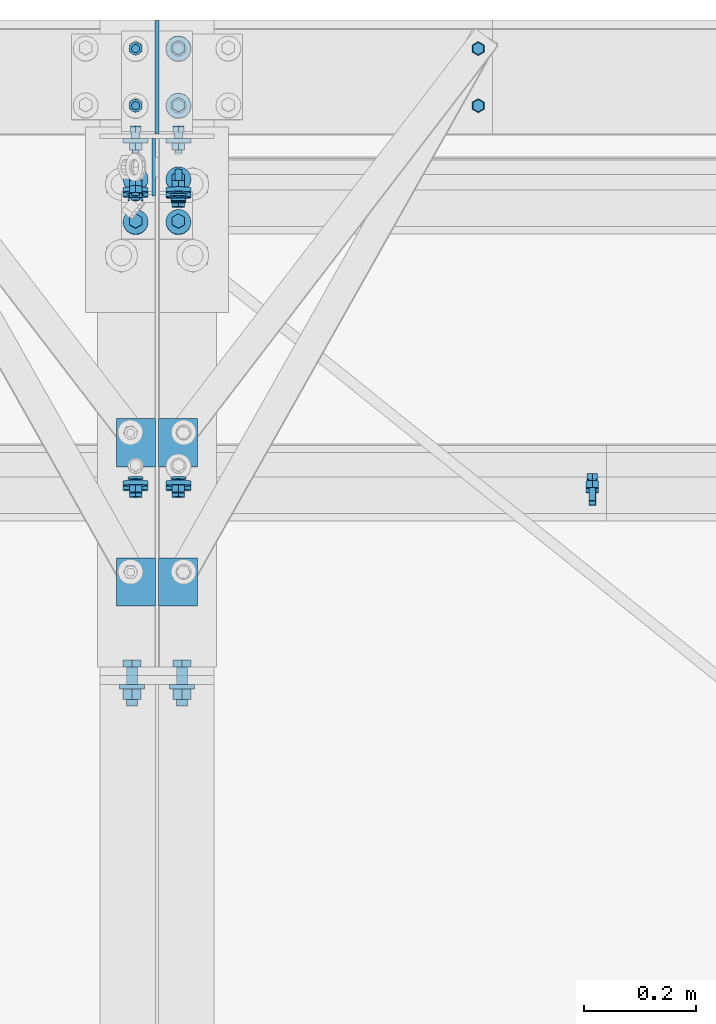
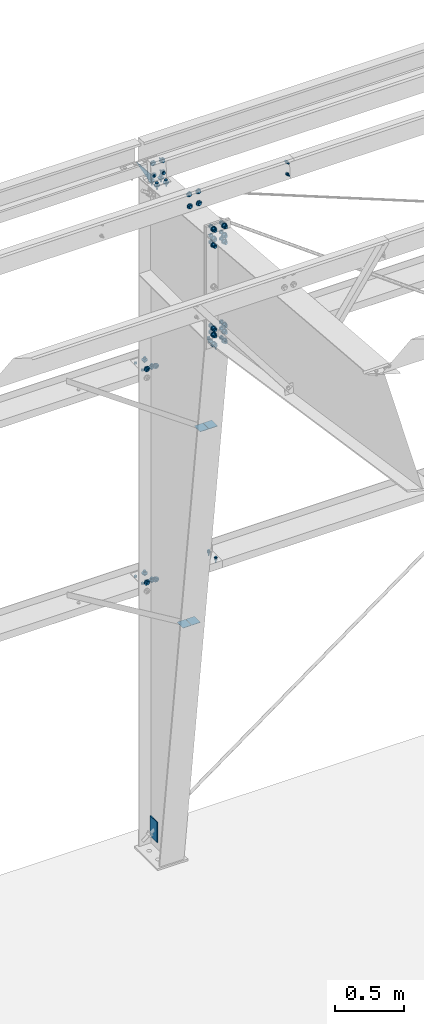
# One storey, part 99 of 185: 19 mechanical fasteners, 6 discrete accessories, 9 elements without a shape of their own.
"""IFC2X3 building model written with IfcOpenShell, lengths in millimetres."""

from ifc_helpers import new_model, si_unit, frame, origin_with_axes, origin_2d_with_axis, place, context, subcontext, project, spatial, polyline, rectangle, circle, outline, extrude, source, transform, mapped, material, type_object, element, aggregate, save


model = new_model("IFC2X3")

# Units and contexts
model_context = context("Model", 3, precision=1e-05, world=origin_with_axes())
body_context = subcontext(model_context, "Body", "Model", "MODEL_VIEW")
ifc_project = project(units=[si_unit("LENGTHUNIT", "METRE", prefix="MILLI"), si_unit("AREAUNIT", "SQUARE_METRE"), si_unit("VOLUMEUNIT", "CUBIC_METRE"), si_unit("MASSUNIT", "GRAM", prefix="KILO"), si_unit("TIMEUNIT", "SECOND"), si_unit("PLANEANGLEUNIT", "RADIAN"), si_unit("SOLIDANGLEUNIT", "STERADIAN"), si_unit("THERMODYNAMICTEMPERATUREUNIT", "DEGREE_CELSIUS"), si_unit("LUMINOUSINTENSITYUNIT", "LUMEN")], contexts=[model_context])

# Site, building, storey
site_placement = place(None, origin_with_axes())
site = spatial("IfcSite", under=ifc_project, at=site_placement, Name="Undefined", CompositionType="ELEMENT")
building_placement = place(site_placement, origin_with_axes())
building = spatial("IfcBuilding", under=site, at=building_placement, Name="Undefined", CompositionType="ELEMENT")
storey_placement = place(building_placement, origin_with_axes())
storey = spatial("IfcBuildingStorey", under=building, at=storey_placement, Name="Undefined", CompositionType="ELEMENT", Elevation=0.0)

# Assembly, mechanical fasteners
assembly_1_placement = place(storey_placement, origin_with_axes())
assembly_1 = element("IfcElementAssembly", 1, at=assembly_1_placement, inside=storey, Name="Steel Assembly", AssemblyPlace="NOTDEFINED", PredefinedType="RIGID_FRAME")
ifc_material_1 = material(Name="Undefined")
discrete_accessory_type_1 = type_object("IfcDiscreteAccessoryType", Name="Bolt assembly")
shared_shape_1 = source(origin_with_axes(), body_context, "Body", "SweptSolid", [
    extrude(circle(Radius=7.14374971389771, at=origin_2d_with_axis()), frame((0.0, -1.59000001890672, 0.0), z_axis=(0.0, 1.0, 0.0), x_axis=(1.0, 0.0, 0.0)), (0.0, 0.0, 1.0), 3.3),
    extrude(circle(Radius=13.4937496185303, at=origin_2d_with_axis()), frame((0.0, -5.5587500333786, 0.0), z_axis=(0.0, 1.0, 0.0), x_axis=(1.0, 0.0, 0.0)), (0.0, 0.0, 1.0), 4.0),
    extrude(circle(Radius=22.2250003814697, at=origin_2d_with_axis()), frame((0.0, 1.5900000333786, 0.0), z_axis=(0.0, 1.0, 0.0), x_axis=(1.0, 0.0, 0.0)), (0.0, 0.0, 1.0), 7.9),
    extrude(outline(polyline([(12.8316099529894, 0.0), (6.4158049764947, 11.1125001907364), (-6.4158049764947, 11.1125001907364), (-12.8316099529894, 0.0), (-6.4158049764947, -11.1125001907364), (6.4158049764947, -11.1125001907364), (12.8316099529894, 0.0)])), frame((0.0, 9.5275000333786, 0.0), z_axis=(0.0, 1.0, 0.0), x_axis=(1.0, 0.0, 0.0)), (0.0, 0.0, 1.0), 12.3),
])
mechanical_fastener_1_placement = place(assembly_1_placement, frame((30137.1, 31696.1295150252, 6070.67979008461), z_axis=(1.0, 0.0, 0.0), x_axis=(0.0, -0.0830454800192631, -0.996545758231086)))
mechanical_fastener_1 = element("IfcMechanicalFastener", 2, at=mechanical_fastener_1_placement, type_object=discrete_accessory_type_1, material=ifc_material_1, Name="Bolt assembly", NominalDiameter=12.6999998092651, NominalLength=38.0999984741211, context=body_context, shape_type="MappedRepresentation", body=[
    mapped(shared_shape_1, transform((0.0, 0.0, 0.0))),
    mapped(shared_shape_1, transform((101.599998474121, 0.0, 0.0))),
])
mechanical_fastener_2_placement = place(assembly_1_placement, frame((30060.9, 31696.1295150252, 6070.67979008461), z_axis=(1.0, 0.0, 0.0), x_axis=(0.0, -0.0830454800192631, -0.996545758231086)))
mechanical_fastener_2 = element("IfcMechanicalFastener", 3, at=mechanical_fastener_2_placement, type_object=discrete_accessory_type_1, material=ifc_material_1, Name="Bolt assembly", NominalDiameter=12.6999998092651, NominalLength=38.0999984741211, context=body_context, shape_type="MappedRepresentation", body=[
    mapped(shared_shape_1, transform((0.0, 0.0, 0.0))),
    mapped(shared_shape_1, transform((101.599998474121, 0.0, 0.0))),
])

# Assembly, mechanical fastener
assembly_2_placement = place(storey_placement, origin_with_axes())
assembly_2 = element("IfcElementAssembly", 4, at=assembly_2_placement, inside=storey, Name="Steel Assembly", AssemblyPlace="NOTDEFINED", PredefinedType="RIGID_FRAME")
mechanical_fastener_3_placement = place(assembly_2_placement, frame((30060.9, 31185.1382206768, 6113.2623980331), z_axis=(-1.0, 0.0, 0.0), x_axis=(0.0, -0.0830454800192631, -0.996545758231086)))
mechanical_fastener_3 = element("IfcMechanicalFastener", 5, at=mechanical_fastener_3_placement, type_object=discrete_accessory_type_1, material=ifc_material_1, Name="Bolt assembly", NominalDiameter=12.6999998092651, NominalLength=38.0999984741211, context=body_context, shape_type="MappedRepresentation", body=[
    mapped(shared_shape_1, transform((0.0, 0.0, 0.0))),
    mapped(shared_shape_1, transform((101.599998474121, 0.0, 0.0))),
])
aggregate(assembly_2, [mechanical_fastener_3])

assembly_3_placement = place(storey_placement, origin_with_axes())
assembly_3 = element("IfcElementAssembly", 6, at=assembly_3_placement, inside=storey, Name="Steel Assembly", AssemblyPlace="NOTDEFINED", PredefinedType="RIGID_FRAME")
mechanical_fastener_4_placement = place(assembly_3_placement, frame((30137.1, 31185.1382206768, 6113.2623980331), z_axis=(-1.0, 0.0, 0.0), x_axis=(0.0, -0.0830454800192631, -0.996545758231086)))
mechanical_fastener_4 = element("IfcMechanicalFastener", 7, at=mechanical_fastener_4_placement, type_object=discrete_accessory_type_1, material=ifc_material_1, Name="Bolt assembly", NominalDiameter=12.6999998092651, NominalLength=38.0999984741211, context=body_context, shape_type="MappedRepresentation", body=[
    mapped(shared_shape_1, transform((0.0, 0.0, 0.0))),
    mapped(shared_shape_1, transform((101.599998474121, 0.0, 0.0))),
])

# Assembly, discrete accessories
assembly_4_placement = place(storey_placement, origin_with_axes())
assembly_4 = element("IfcElementAssembly", 8, at=assembly_4_placement, inside=storey, Name="Steel Assembly", AssemblyPlace="NOTDEFINED", PredefinedType="RIGID_FRAME")
ifc_material_2 = material(Name="STEEL/55")
discrete_accessory_type_2 = type_object("IfcDiscreteAccessoryType", Name="FLANGE BRACE FLIP")
discrete_accessory_1_placement = place(assembly_4_placement, frame((30101.38125, 31251.9277679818, 2284.292), z_axis=(0.0, 1.0, 0.0), x_axis=(1.0, 0.0, 0.0)))
discrete_accessory_1 = element("IfcDiscreteAccessory", 9, at=discrete_accessory_1_placement, type_object=discrete_accessory_type_2, material=ifc_material_2, Name="FLANGE BRACE FLIP", ObjectType="PL1/8\"X2 3/4\"", context=body_context, shape_type="SweptSolid", body=[
    extrude(rectangle(XDim=3.416, YDim=85.725, at=origin_2d_with_axis()), frame((69.8499999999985, 0.0, 0.0), z_axis=(-1.0, 0.0, 0.0), x_axis=(0.0, -1.0, 0.0)), (0.0, 0.0, 1.0), 69.8),
])
discrete_accessory_2_placement = place(assembly_4_placement, frame((30096.61875, 31251.9277679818, 2284.292), z_axis=(0.0, 1.0, 0.0), x_axis=(-1.0, 0.0, 0.0)))
discrete_accessory_2 = element("IfcDiscreteAccessory", 10, at=discrete_accessory_2_placement, type_object=discrete_accessory_type_2, material=ifc_material_2, Name="FLANGE BRACE FLIP", ObjectType="PL1/8\"X2 3/4\"", context=body_context, shape_type="SweptSolid", body=[
    extrude(rectangle(XDim=3.416, YDim=85.725, at=origin_2d_with_axis()), frame((69.8499999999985, 0.0, 0.0), z_axis=(-1.0, 0.0, 0.0), x_axis=(0.0, -1.0, 0.0)), (0.0, 0.0, 1.0), 69.8),
])
discrete_accessory_3_placement = place(assembly_4_placement, frame((30101.38125, 31003.9296133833, 4163.892), z_axis=(0.0, 1.0, 0.0), x_axis=(1.0, 0.0, 0.0)))
discrete_accessory_3 = element("IfcDiscreteAccessory", 11, at=discrete_accessory_3_placement, type_object=discrete_accessory_type_2, material=ifc_material_2, Name="FLANGE BRACE FLIP", ObjectType="PL1/8\"X2 3/4\"", context=body_context, shape_type="SweptSolid", body=[
    extrude(rectangle(XDim=3.416, YDim=85.725, at=origin_2d_with_axis()), frame((69.8499999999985, 0.0, 0.0), z_axis=(-1.0, 0.0, 0.0), x_axis=(0.0, -1.0, 0.0)), (0.0, 0.0, 1.0), 69.8),
])
discrete_accessory_4_placement = place(assembly_4_placement, frame((30096.61875, 31003.9296133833, 4163.892), z_axis=(0.0, 1.0, 0.0), x_axis=(-1.0, 0.0, 0.0)))
discrete_accessory_4 = element("IfcDiscreteAccessory", 12, at=discrete_accessory_4_placement, type_object=discrete_accessory_type_2, material=ifc_material_2, Name="FLANGE BRACE FLIP", ObjectType="PL1/8\"X2 3/4\"", context=body_context, shape_type="SweptSolid", body=[
    extrude(rectangle(XDim=3.416, YDim=85.725, at=origin_2d_with_axis()), frame((69.8499999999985, 0.0, 0.0), z_axis=(-1.0, 0.0, 0.0), x_axis=(0.0, -1.0, 0.0)), (0.0, 0.0, 1.0), 69.8),
])

# Assembly, mechanical fastener
assembly_5_placement = place(storey_placement, origin_with_axes())
assembly_5 = element("IfcElementAssembly", 13, at=assembly_5_placement, inside=storey, Name="Steel Assembly", AssemblyPlace="NOTDEFINED", PredefinedType="RIGID_FRAME")
shared_shape_2 = source(origin_with_axes(), body_context, "Body", "SweptSolid", [
    extrude(circle(Radius=7.14374971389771, at=origin_2d_with_axis()), frame((0.0, -0.1, 0.0), z_axis=(0.0, 1.0, 0.0), x_axis=(1.0, 0.0, 0.0)), (0.0, 0.0, 1.0), 8.0),
    extrude(circle(Radius=7.14374971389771, at=origin_2d_with_axis()), frame((0.0, -4.66250000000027, 0.0), z_axis=(0.0, 1.0, 0.0), x_axis=(1.0, 0.0, 0.0)), (0.0, 0.0, 1.0), 4.8),
    extrude(outline(polyline([(10.9985221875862, 0.0), (5.4992610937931, 9.52499961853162), (-5.4992610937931, 9.52499961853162), (-10.9985221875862, 0.0), (-5.4992610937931, -9.52499961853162), (5.4992610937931, -9.52499961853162), (10.9985221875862, 0.0)])), frame((0.0, -14.2874996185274, 0.0), z_axis=(0.0, 1.0, 0.0), x_axis=(1.0, 0.0, 0.0)), (0.0, 0.0, 1.0), 9.5),
    extrude(circle(Radius=6.34999990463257, at=origin_2d_with_axis()), frame((0.0, -4.76250000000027, 0.0), z_axis=(0.0, 1.0, 0.0), x_axis=(1.0, 0.0, 0.0)), (0.0, 0.0, 1.0), 38.1),
    extrude(circle(Radius=22.2250003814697, at=origin_2d_with_axis()), frame((0.0, 7.87399999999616, 0.0), z_axis=(0.0, 1.0, 0.0), x_axis=(1.0, 0.0, 0.0)), (0.0, 0.0, 1.0), 7.9),
    extrude(outline(polyline([(12.8316099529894, 0.0), (6.4158049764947, 11.1125001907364), (-6.4158049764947, 11.1125001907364), (-12.8316099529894, 0.0), (-6.4158049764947, -11.1125001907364), (6.4158049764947, -11.1125001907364), (12.8316099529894, 0.0)])), frame((0.0, 15.8114999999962, 0.0), z_axis=(0.0, 1.0, 0.0), x_axis=(1.0, 0.0, 0.0)), (0.0, 0.0, 1.0), 12.3),
])
mechanical_fastener_5_placement = place(assembly_5_placement, frame((30099.0, 31800.8, 4203.7), z_axis=(1.0, 0.0, 0.0), x_axis=(0.0, 0.0, 1.0)))
mechanical_fastener_5 = element("IfcMechanicalFastener", 14, at=mechanical_fastener_5_placement, type_object=discrete_accessory_type_1, material=ifc_material_1, Name="Bolt assembly", NominalDiameter=12.6999998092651, NominalLength=38.0999984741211, context=body_context, shape_type="MappedRepresentation", body=[
    mapped(shared_shape_2, transform((0.0, 0.0, -38.0999984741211))),
    mapped(shared_shape_2, transform((0.0, 0.0, 38.0999984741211))),
])

assembly_6_placement = place(storey_placement, origin_with_axes())
assembly_6 = element("IfcElementAssembly", 15, at=assembly_6_placement, inside=storey, Name="Steel Assembly", AssemblyPlace="NOTDEFINED", PredefinedType="RIGID_FRAME")
mechanical_fastener_6_placement = place(assembly_6_placement, frame((30099.0, 31800.8, 2324.1), z_axis=(1.0, 0.0, 0.0), x_axis=(0.0, 0.0, 1.0)))
mechanical_fastener_6 = element("IfcMechanicalFastener", 16, at=mechanical_fastener_6_placement, type_object=discrete_accessory_type_1, material=ifc_material_1, Name="Bolt assembly", NominalDiameter=12.6999998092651, NominalLength=38.0999984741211, context=body_context, shape_type="MappedRepresentation", body=[
    mapped(shared_shape_2, transform((0.0, 0.0, -38.0999984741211))),
    mapped(shared_shape_2, transform((0.0, 0.0, 38.0999984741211))),
])

# Discrete accessory
discrete_accessory_type_3 = type_object("IfcDiscreteAccessoryType", Name="BACKUP PL SINGLE SLOT")
discrete_accessory_5_placement = place(assembly_4_placement, frame((30093.4437512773, 31742.1288478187, 256.370463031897), z_axis=(-0.000896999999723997, -0.999999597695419, 0.0), x_axis=(0.0, 0.0, -1.0)))
discrete_accessory_5 = element("IfcDiscreteAccessory", 17, at=discrete_accessory_5_placement, type_object=discrete_accessory_type_3, material=ifc_material_2, Name="BACKUP PL SINGLE SLOT", ObjectType="FL1/4\"X4\"", context=body_context, shape_type="SweptSolid", body=[
    extrude(rectangle(XDim=6.35, YDim=101.6, at=origin_2d_with_axis()), frame((177.800000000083, 0.0, 0.0), z_axis=(-1.0, 0.0, 0.0), x_axis=(0.0, -1.0, 0.0)), (0.0, 0.0, 1.0), 177.8),
])

# Assembly, mechanical fastener
assembly_7_placement = place(storey_placement, origin_with_axes())
assembly_7 = element("IfcElementAssembly", 18, at=assembly_7_placement, inside=storey, Name="Steel Assembly", AssemblyPlace="NOTDEFINED", PredefinedType="RIGID_FRAME")
shared_shape_3 = source(origin_with_axes(), body_context, "Body", "SweptSolid", [
    extrude(circle(Radius=7.14374971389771, at=origin_2d_with_axis()), frame((0.0, -1.4900000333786, 0.0), z_axis=(0.0, 1.0, 0.0), x_axis=(1.0, 0.0, 0.0)), (0.0, 0.0, 1.0), 3.2),
    extrude(circle(Radius=7.14374971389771, at=origin_2d_with_axis()), frame((0.0, -1.4900000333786, 0.0), z_axis=(0.0, 1.0, 0.0), x_axis=(1.0, 0.0, 0.0)), (0.0, 0.0, 1.0), 3.2),
    extrude(outline(polyline([(10.9985221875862, 0.0), (5.4992610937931, 9.52499961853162), (-5.4992610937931, 9.52499961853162), (-10.9985221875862, 0.0), (-5.4992610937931, -9.52499961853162), (5.4992610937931, -9.52499961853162), (10.9985221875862, 0.0)])), frame((0.0, -11.1149996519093, 0.0), z_axis=(0.0, 1.0, 0.0), x_axis=(1.0, 0.0, 0.0)), (0.0, 0.0, 1.0), 9.5),
    extrude(circle(Radius=6.34999990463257, at=origin_2d_with_axis()), frame((0.0, -1.59000001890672, 0.0), z_axis=(0.0, 1.0, 0.0), x_axis=(1.0, 0.0, 0.0)), (0.0, 0.0, 1.0), 38.1),
    extrude(outline(polyline([(12.8316099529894, 0.0), (6.4158049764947, 11.1125001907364), (-6.4158049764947, 11.1125001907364), (-12.8316099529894, 0.0), (-6.4158049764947, -11.1125001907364), (6.4158049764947, -11.1125001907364), (12.8316099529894, 0.0)])), frame((0.0, 1.5900000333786, 0.0), z_axis=(0.0, 1.0, 0.0), x_axis=(1.0, 0.0, 0.0)), (0.0, 0.0, 1.0), 12.3),
])
mechanical_fastener_7_placement = place(assembly_7_placement, frame((30670.5, 31953.2, 4165.6), z_axis=(1.0, 0.0, 0.0), x_axis=(0.0, -1.0, 0.0)))
mechanical_fastener_7 = element("IfcMechanicalFastener", 19, at=mechanical_fastener_7_placement, type_object=discrete_accessory_type_1, material=ifc_material_1, Name="Bolt assembly", NominalDiameter=12.6999998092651, NominalLength=38.0999984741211, context=body_context, shape_type="MappedRepresentation", body=[
    mapped(shared_shape_3, transform((0.0, 0.0, 0.0))),
    mapped(shared_shape_3, transform((101.599998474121, 0.0, 0.0))),
])

assembly_8_placement = place(storey_placement, origin_with_axes())
assembly_8 = element("IfcElementAssembly", 20, at=assembly_8_placement, inside=storey, Name="Steel Assembly", AssemblyPlace="NOTDEFINED", PredefinedType="RIGID_FRAME")
mechanical_fastener_8_placement = place(assembly_8_placement, frame((30670.5, 31953.2, 2286.0), z_axis=(1.0, 0.0, 0.0), x_axis=(0.0, -1.0, 0.0)))
mechanical_fastener_8 = element("IfcMechanicalFastener", 21, at=mechanical_fastener_8_placement, type_object=discrete_accessory_type_1, material=ifc_material_1, Name="Bolt assembly", NominalDiameter=12.6999998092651, NominalLength=38.0999984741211, context=body_context, shape_type="MappedRepresentation", body=[
    mapped(shared_shape_3, transform((0.0, 0.0, 0.0))),
    mapped(shared_shape_3, transform((101.599998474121, 0.0, 0.0))),
])

# Mechanical fastener
mechanical_fastener_9_placement = place(assembly_3_placement, frame((30873.7, 31185.1382206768, 6113.2623980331), z_axis=(-1.0, 0.0, 0.0), x_axis=(0.0, -0.0830454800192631, -0.996545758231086)))
mechanical_fastener_9 = element("IfcMechanicalFastener", 22, at=mechanical_fastener_9_placement, type_object=discrete_accessory_type_1, material=ifc_material_1, Name="Bolt assembly", NominalDiameter=12.6999998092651, NominalLength=38.0999984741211, context=body_context, shape_type="MappedRepresentation", body=[
    mapped(shared_shape_3, transform((0.0, 0.0, 0.0))),
    mapped(shared_shape_3, transform((101.599998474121, 0.0, 0.0))),
])

aggregate(assembly_3, [mechanical_fastener_4, mechanical_fastener_9])

# Discrete accessory
discrete_accessory_type_4 = type_object("IfcDiscreteAccessoryType", Name="Gusset")
discrete_accessory_6_placement = place(assembly_4_placement, frame((30099.0, 31800.8, 5901.05124136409), z_axis=(-1.0, 0.0, 0.0), x_axis=(0.0, 0.996545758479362, -0.0830454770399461)))
discrete_accessory_6 = element("IfcDiscreteAccessory", 23, at=discrete_accessory_6_placement, type_object=discrete_accessory_type_4, material=ifc_material_2, Name="Gusset", ObjectType="1/4\"X2 7/8\"", context=body_context, shape_type="SweptSolid", body=[
    extrude(outline(polyline([(0.0, 0.0), (203.427200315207, -7.38509697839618e-10), (6.32806539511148, 75.9367904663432), (0.0, 0.0)])), frame((0.0, 0.0, -3.175), z_axis=(0.0, 0.0, 1.0), x_axis=(1.0, 0.0, 0.0)), (0.0, 0.0, 1.0), 6.4),
])

# Mechanical fastener
shared_shape_4 = source(origin_with_axes(), body_context, "Body", "SweptSolid", [
    extrude(circle(Radius=10.3187494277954, at=origin_2d_with_axis()), frame((0.0, -0.1, 0.0), z_axis=(0.0, 1.0, 0.0), x_axis=(1.0, 0.0, 0.0)), (0.0, 0.0, 1.0), 15.8),
    extrude(circle(Radius=10.3187494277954, at=origin_2d_with_axis()), frame((0.0, -15.775, 0.0), z_axis=(0.0, 1.0, 0.0), x_axis=(1.0, 0.0, 0.0)), (0.0, 0.0, 1.0), 15.9),
    extrude(outline(polyline([(18.3308710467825, 0.0), (9.16543552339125, 15.8750000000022), (-9.16543552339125, 15.8750000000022), (-18.3308710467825, 0.0), (-9.16543552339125, -15.8750000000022), (9.16543552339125, -15.8750000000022), (18.3308710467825, 0.0)])), frame((0.0, -27.78125, 0.0), z_axis=(0.0, 1.0, 0.0), x_axis=(1.0, 0.0, 0.0)), (0.0, 0.0, 1.0), 11.9),
    extrude(circle(Radius=9.52499961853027, at=origin_2d_with_axis()), frame((0.0, -15.8750000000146, 0.0), z_axis=(0.0, 1.0, 0.0), x_axis=(1.0, 0.0, 0.0)), (0.0, 0.0, 1.0), 69.8),
    extrude(circle(Radius=22.2250003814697, at=origin_2d_with_axis()), frame((0.0, 15.7480000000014, 0.0), z_axis=(0.0, 1.0, 0.0), x_axis=(1.0, 0.0, 0.0)), (0.0, 0.0, 1.0), 7.9),
    extrude(outline(polyline([(18.3308710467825, 0.0), (9.16543552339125, 15.8750000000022), (-9.16543552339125, 15.8750000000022), (-18.3308710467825, 0.0), (-9.16543552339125, -15.8750000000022), (9.16543552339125, -15.8750000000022), (18.3308710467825, 0.0)])), frame((0.0, 23.6855000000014, 0.0), z_axis=(0.0, 1.0, 0.0), x_axis=(1.0, 0.0, 0.0)), (0.0, 0.0, 1.0), 19.0),
])
mechanical_fastener_10_placement = place(assembly_4_placement, frame((30099.0, 30837.251, 5016.27948446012), z_axis=(1.0, 0.0, 0.0), x_axis=(0.0, 0.0, 1.0)))
mechanical_fastener_10 = element("IfcMechanicalFastener", 24, at=mechanical_fastener_10_placement, type_object=discrete_accessory_type_1, material=ifc_material_1, Name="Bolt assembly", NominalDiameter=19.0499992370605, NominalLength=69.8499984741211, context=body_context, shape_type="MappedRepresentation", body=[
    mapped(shared_shape_4, transform((0.0, 0.0, -44.4500007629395))),
    mapped(shared_shape_4, transform((82.5500030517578, 0.0, -44.4500007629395))),
    mapped(shared_shape_4, transform((139.699996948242, 0.0, -44.4500007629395))),
    mapped(shared_shape_4, transform((0.0, 0.0, 44.4500007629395))),
    mapped(shared_shape_4, transform((82.5500030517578, 0.0, 44.4500007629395))),
    mapped(shared_shape_4, transform((139.699996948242, 0.0, 44.4500007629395))),
])

mechanical_fastener_11_placement = place(assembly_4_placement, frame((30099.0, 30837.251, 6029.10448751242), z_axis=(-1.0, 0.0, 0.0), x_axis=(0.0, 0.0, -1.0)))
mechanical_fastener_11 = element("IfcMechanicalFastener", 25, at=mechanical_fastener_11_placement, type_object=discrete_accessory_type_1, material=ifc_material_1, Name="Bolt assembly", NominalDiameter=19.0499992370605, NominalLength=69.8499984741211, context=body_context, shape_type="MappedRepresentation", body=[
    mapped(shared_shape_4, transform((0.0, 0.0, -44.4500007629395))),
    mapped(shared_shape_4, transform((82.5500030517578, 0.0, -44.4500007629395))),
    mapped(shared_shape_4, transform((139.699996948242, 0.0, -44.4500007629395))),
    mapped(shared_shape_4, transform((0.0, 0.0, 44.4500007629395))),
    mapped(shared_shape_4, transform((82.5500030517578, 0.0, 44.4500007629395))),
    mapped(shared_shape_4, transform((139.699996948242, 0.0, 44.4500007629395))),
])

ifc_material_3 = material(Name="7990")
shared_shape_5 = source(origin_with_axes(), body_context, "Body", "SweptSolid", [
    extrude(circle(Radius=7.14374971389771, at=origin_2d_with_axis()), frame((0.0, -1.4900000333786, 0.0), z_axis=(0.0, 1.0, 0.0), x_axis=(1.0, 0.0, 0.0)), (0.0, 0.0, 1.0), 3.2),
    extrude(circle(Radius=7.14374971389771, at=origin_2d_with_axis()), frame((0.0, -1.4900000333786, 0.0), z_axis=(0.0, 1.0, 0.0), x_axis=(1.0, 0.0, 0.0)), (0.0, 0.0, 1.0), 3.2),
    extrude(circle(Radius=11.4299998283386, at=origin_2d_with_axis()), frame((0.0, 1.5900000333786, 0.0), z_axis=(0.0, 1.0, 0.0), x_axis=(1.0, 0.0, 0.0)), (0.0, 0.0, 1.0), 4.2),
    extrude(outline(polyline([(12.171698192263, 0.0), (6.08584909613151, 10.5409998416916), (-6.08584909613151, 10.5409998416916), (-12.171698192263, 0.0), (-6.08584909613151, -10.5409998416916), (6.08584909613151, -10.5409998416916), (12.171698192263, 0.0)])), frame((0.0, 5.78099997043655, 0.0), z_axis=(0.0, 1.0, 0.0), x_axis=(1.0, 0.0, 0.0)), (0.0, 0.0, 1.0), 8.4),
])
mechanical_fastener_12_placement = place(assembly_7_placement, frame((30060.9, 31953.2, 4165.6), z_axis=(1.0, 0.0, 0.0), x_axis=(0.0, -1.0, 0.0)))
mechanical_fastener_12 = element("IfcMechanicalFastener", 26, at=mechanical_fastener_12_placement, type_object=discrete_accessory_type_1, material=ifc_material_3, Name="Bolt assembly", NominalDiameter=12.6999998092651, NominalLength=38.0999984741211, context=body_context, shape_type="MappedRepresentation", body=[
    mapped(shared_shape_5, transform((0.0, 0.0, 0.0))),
    mapped(shared_shape_5, transform((101.599998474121, 0.0, 0.0))),
])

aggregate(assembly_7, [mechanical_fastener_12, mechanical_fastener_7])

mechanical_fastener_13_placement = place(assembly_8_placement, frame((30060.9, 31953.2, 2286.0), z_axis=(1.0, 0.0, 0.0), x_axis=(0.0, -1.0, 0.0)))
mechanical_fastener_13 = element("IfcMechanicalFastener", 27, at=mechanical_fastener_13_placement, type_object=discrete_accessory_type_1, material=ifc_material_3, Name="Bolt assembly", NominalDiameter=12.6999998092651, NominalLength=38.0999984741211, context=body_context, shape_type="MappedRepresentation", body=[
    mapped(shared_shape_5, transform((0.0, 0.0, 0.0))),
    mapped(shared_shape_5, transform((101.599998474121, 0.0, 0.0))),
])

aggregate(assembly_8, [mechanical_fastener_13, mechanical_fastener_8])

shared_shape_6 = source(origin_with_axes(), body_context, "Body", "SweptSolid", [
    extrude(circle(Radius=7.14374971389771, at=origin_2d_with_axis()), frame((0.0, -1.59000001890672, 0.0), z_axis=(0.0, 1.0, 0.0), x_axis=(1.0, 0.0, 0.0)), (0.0, 0.0, 1.0), 3.2),
    extrude(circle(Radius=7.14374971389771, at=origin_2d_with_axis()), frame((0.0, -4.66250000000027, 0.0), z_axis=(0.0, 1.0, 0.0), x_axis=(1.0, 0.0, 0.0)), (0.0, 0.0, 1.0), 4.8),
    extrude(circle(Radius=7.14374971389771, at=origin_2d_with_axis()), frame((0.0, -1.59000001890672, 0.0), z_axis=(0.0, 1.0, 0.0), x_axis=(1.0, 0.0, 0.0)), (0.0, 0.0, 1.0), 3.2),
    extrude(outline(polyline([(10.9985221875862, 0.0), (5.4992610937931, 9.52499961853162), (-5.4992610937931, 9.52499961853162), (-10.9985221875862, 0.0), (-5.4992610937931, -9.52499961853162), (5.4992610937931, -9.52499961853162), (10.9985221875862, 0.0)])), frame((0.0, -18.2562496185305, 0.0), z_axis=(0.0, 1.0, 0.0), x_axis=(1.0, 0.0, 0.0)), (0.0, 0.0, 1.0), 9.5),
    extrude(circle(Radius=6.34999990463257, at=origin_2d_with_axis()), frame((0.0, -8.73125000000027, 0.0), z_axis=(0.0, 1.0, 0.0), x_axis=(1.0, 0.0, 0.0)), (0.0, 0.0, 1.0), 38.1),
    extrude(circle(Radius=13.4937496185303, at=origin_2d_with_axis()), frame((0.0, -8.73125000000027, 0.0), z_axis=(0.0, 1.0, 0.0), x_axis=(1.0, 0.0, 0.0)), (0.0, 0.0, 1.0), 4.0),
    extrude(circle(Radius=22.2250003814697, at=origin_2d_with_axis()), frame((0.0, 1.5900000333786, 0.0), z_axis=(0.0, 1.0, 0.0), x_axis=(1.0, 0.0, 0.0)), (0.0, 0.0, 1.0), 7.9),
    extrude(outline(polyline([(12.8316099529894, 0.0), (6.4158049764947, 11.1125001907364), (-6.4158049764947, 11.1125001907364), (-12.8316099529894, 0.0), (-6.4158049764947, -11.1125001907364), (6.4158049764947, -11.1125001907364), (12.8316099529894, 0.0)])), frame((0.0, 9.5275000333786, 0.0), z_axis=(0.0, 1.0, 0.0), x_axis=(1.0, 0.0, 0.0)), (0.0, 0.0, 1.0), 12.3),
])
mechanical_fastener_14_placement = place(assembly_5_placement, frame((30137.1, 31953.2, 4165.6), z_axis=(1.0, 0.0, 0.0), x_axis=(0.0, -1.0, 0.0)))
mechanical_fastener_14 = element("IfcMechanicalFastener", 28, at=mechanical_fastener_14_placement, type_object=discrete_accessory_type_1, material=ifc_material_1, Name="Bolt assembly", NominalDiameter=12.6999998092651, NominalLength=38.0999984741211, context=body_context, shape_type="MappedRepresentation", body=[
    mapped(shared_shape_6, transform((0.0, 0.0, 0.0))),
    mapped(shared_shape_6, transform((101.599998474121, 0.0, 0.0))),
])

aggregate(assembly_5, [mechanical_fastener_5, mechanical_fastener_14])

mechanical_fastener_15_placement = place(assembly_6_placement, frame((30137.1, 31953.2, 2286.0), z_axis=(1.0, 0.0, 0.0), x_axis=(0.0, -1.0, 0.0)))
mechanical_fastener_15 = element("IfcMechanicalFastener", 29, at=mechanical_fastener_15_placement, type_object=discrete_accessory_type_1, material=ifc_material_1, Name="Bolt assembly", NominalDiameter=12.6999998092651, NominalLength=38.0999984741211, context=body_context, shape_type="MappedRepresentation", body=[
    mapped(shared_shape_6, transform((0.0, 0.0, 0.0))),
    mapped(shared_shape_6, transform((101.599998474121, 0.0, 0.0))),
])

aggregate(assembly_6, [mechanical_fastener_6, mechanical_fastener_15])

shared_shape_7 = source(origin_with_axes(), body_context, "Body", "SweptSolid", [
    extrude(circle(Radius=7.14374971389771, at=origin_2d_with_axis()), frame((0.0, -0.1, 0.0), z_axis=(0.0, 1.0, 0.0), x_axis=(1.0, 0.0, 0.0)), (0.0, 0.0, 1.0), 8.1),
    extrude(circle(Radius=7.14374971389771, at=origin_2d_with_axis()), frame((0.0, -3.08000006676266, 0.0), z_axis=(0.0, 1.0, 0.0), x_axis=(1.0, 0.0, 0.0)), (0.0, 0.0, 1.0), 3.2),
    extrude(outline(polyline([(12.8316099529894, 0.0), (6.4158049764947, 11.1125001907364), (-6.4158049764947, 11.1125001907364), (-12.8316099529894, 0.0), (-6.4158049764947, -11.1125001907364), (6.4158049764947, -11.1125001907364), (12.8316099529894, 0.0)])), frame((0.0, -11.1175003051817, 0.0), z_axis=(0.0, 1.0, 0.0), x_axis=(1.0, 0.0, 0.0)), (0.0, 0.0, 1.0), 7.9),
    extrude(circle(Radius=6.34999990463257, at=origin_2d_with_axis()), frame((0.0, -3.18000030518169, 0.0), z_axis=(0.0, 1.0, 0.0), x_axis=(1.0, 0.0, 0.0)), (0.0, 0.0, 1.0), 50.8),
    extrude(circle(Radius=22.2250003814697, at=origin_2d_with_axis()), frame((0.0, 7.95019856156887, 0.0), z_axis=(0.0, 1.0, 0.0), x_axis=(1.0, 0.0, 0.0)), (0.0, 0.0, 1.0), 7.9),
    extrude(outline(polyline([(12.8316099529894, 0.0), (6.4158049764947, 11.1125001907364), (-6.4158049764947, 11.1125001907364), (-12.8316099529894, 0.0), (-6.4158049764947, -11.1125001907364), (6.4158049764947, -11.1125001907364), (12.8316099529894, 0.0)])), frame((0.0, 15.8876985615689, 0.0), z_axis=(0.0, 1.0, 0.0), x_axis=(1.0, 0.0, 0.0)), (0.0, 0.0, 1.0), 12.3),
])
mechanical_fastener_16_placement = place(assembly_1_placement, frame((30099.0, 31721.4417772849, 5915.64218374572), z_axis=(-1.0, 0.0, 0.0), x_axis=(0.0, 0.996545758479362, -0.0830454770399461)))
mechanical_fastener_16 = element("IfcMechanicalFastener", 30, at=mechanical_fastener_16_placement, type_object=discrete_accessory_type_1, material=ifc_material_1, Name="Bolt assembly", NominalDiameter=12.6999998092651, NominalLength=50.7999992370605, context=body_context, shape_type="MappedRepresentation", body=[
    mapped(shared_shape_7, transform((0.0, 0.0, -38.0999984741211))),
    mapped(shared_shape_7, transform((0.0, 0.0, 38.0999984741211))),
])

aggregate(assembly_1, [mechanical_fastener_1, mechanical_fastener_2, mechanical_fastener_16])

shared_shape_8 = source(origin_with_axes(), body_context, "Body", "SweptSolid", [
    extrude(circle(Radius=7.14374971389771, at=origin_2d_with_axis()), frame((0.0, -4.65999985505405, 0.0), z_axis=(0.0, 1.0, 0.0), x_axis=(1.0, 0.0, 0.0)), (0.0, 0.0, 1.0), 4.8),
    extrude(circle(Radius=7.14374971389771, at=origin_2d_with_axis()), frame((0.0, -0.1, 0.0), z_axis=(0.0, 1.0, 0.0), x_axis=(1.0, 0.0, 0.0)), (0.0, 0.0, 1.0), 8.1),
    extrude(outline(polyline([(12.8316099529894, 0.0), (6.4158049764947, 11.1125001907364), (-6.4158049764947, 11.1125001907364), (-12.8316099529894, 0.0), (-6.4158049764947, -11.1125001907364), (6.4158049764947, -11.1125001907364), (12.8316099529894, 0.0)])), frame((0.0, -12.697499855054, 0.0), z_axis=(0.0, 1.0, 0.0), x_axis=(1.0, 0.0, 0.0)), (0.0, 0.0, 1.0), 7.9),
    extrude(circle(Radius=6.34999990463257, at=origin_2d_with_axis()), frame((0.0, -4.75999985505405, 0.0), z_axis=(0.0, 1.0, 0.0), x_axis=(1.0, 0.0, 0.0)), (0.0, 0.0, 1.0), 50.8),
    extrude(circle(Radius=22.2250003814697, at=origin_2d_with_axis()), frame((0.0, 7.95019856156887, 0.0), z_axis=(0.0, 1.0, 0.0), x_axis=(1.0, 0.0, 0.0)), (0.0, 0.0, 1.0), 7.9),
    extrude(outline(polyline([(12.8316099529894, 0.0), (6.4158049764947, 11.1125001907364), (-6.4158049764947, 11.1125001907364), (-12.8316099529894, 0.0), (-6.4158049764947, -11.1125001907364), (6.4158049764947, -11.1125001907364), (12.8316099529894, 0.0)])), frame((0.0, 15.8876985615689, 0.0), z_axis=(0.0, 1.0, 0.0), x_axis=(1.0, 0.0, 0.0)), (0.0, 0.0, 1.0), 12.3),
])
mechanical_fastener_17_placement = place(assembly_4_placement, frame((30099.0, 31645.5049905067, 5921.97024931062), z_axis=(1.0, 0.0, 0.0), x_axis=(0.0, -0.996545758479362, 0.0830454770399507)))
mechanical_fastener_17 = element("IfcMechanicalFastener", 31, at=mechanical_fastener_17_placement, type_object=discrete_accessory_type_1, material=ifc_material_1, Name="Bolt assembly", NominalDiameter=12.6999998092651, NominalLength=50.7999992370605, context=body_context, shape_type="MappedRepresentation", body=[
    mapped(shared_shape_8, transform((0.0, 0.0, -38.0999984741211))),
    mapped(shared_shape_8, transform((0.0, 0.0, 38.0999984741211))),
])

aggregate(assembly_4, [discrete_accessory_5, discrete_accessory_6, discrete_accessory_1, discrete_accessory_2, discrete_accessory_3, discrete_accessory_4, mechanical_fastener_17, mechanical_fastener_10, mechanical_fastener_11])

# Assembly, mechanical fasteners
assembly_9_placement = place(storey_placement, origin_with_axes())
assembly_9 = element("IfcElementAssembly", 32, at=assembly_9_placement, inside=storey, Name="Steel Assembly", AssemblyPlace="NOTDEFINED", PredefinedType="RIGID_FRAME")
shared_shape_9 = source(origin_with_axes(), body_context, "Body", "SweptSolid", [
    extrude(circle(Radius=7.14374971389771, at=origin_2d_with_axis()), frame((0.0, -4.75999985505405, 0.0), z_axis=(0.0, 1.0, 0.0), x_axis=(1.0, 0.0, 0.0)), (0.0, 0.0, 1.0), 4.9),
    extrude(outline(polyline([(12.8316099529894, 0.0), (6.4158049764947, 11.1125001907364), (-6.4158049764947, 11.1125001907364), (-12.8316099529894, 0.0), (-6.4158049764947, -11.1125001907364), (6.4158049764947, -11.1125001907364), (12.8316099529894, 0.0)])), frame((0.0, 0.0, 0.0), z_axis=(0.0, 1.0, 0.0), x_axis=(1.0, 0.0, 0.0)), (0.0, 0.0, 1.0), 12.3),
])
mechanical_fastener_18_placement = place(assembly_9_placement, frame((30060.9, 31696.1295150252, 6070.67979008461), z_axis=(1.0, 0.0, 0.0), x_axis=(0.0, -0.0830454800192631, -0.996545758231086)))
mechanical_fastener_18 = element("IfcMechanicalFastener", 33, at=mechanical_fastener_18_placement, type_object=discrete_accessory_type_1, material=ifc_material_1, Name="Bolt assembly", NominalDiameter=12.6999998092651, NominalLength=50.7999992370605, context=body_context, shape_type="MappedRepresentation", body=[
    mapped(shared_shape_9, transform((0.0, 0.0, 0.0))),
    mapped(shared_shape_9, transform((101.599998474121, 0.0, 0.0))),
])
shared_shape_10 = source(origin_with_axes(), body_context, "Body", "SweptSolid", [
    extrude(circle(Radius=7.14374971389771, at=origin_2d_with_axis()), frame((0.0, -4.75999985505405, 0.0), z_axis=(0.0, 1.0, 0.0), x_axis=(1.0, 0.0, 0.0)), (0.0, 0.0, 1.0), 4.9),
    extrude(outline(polyline([(12.8316099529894, 0.0), (6.4158049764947, 11.1125001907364), (-6.4158049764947, 11.1125001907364), (-12.8316099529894, 0.0), (-6.4158049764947, -11.1125001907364), (6.4158049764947, -11.1125001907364), (12.8316099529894, 0.0)])), frame((0.0, -16.6662538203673, 0.0), z_axis=(0.0, 1.0, 0.0), x_axis=(1.0, 0.0, 0.0)), (0.0, 0.0, 1.0), 7.9),
    extrude(circle(Radius=6.34999990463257, at=origin_2d_with_axis()), frame((0.0, -8.72875382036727, 0.0), z_axis=(0.0, 1.0, 0.0), x_axis=(1.0, 0.0, 0.0)), (0.0, 0.0, 1.0), 50.8),
    extrude(circle(Radius=13.4937496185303, at=origin_2d_with_axis()), frame((0.0, -8.72875382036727, 0.0), z_axis=(0.0, 1.0, 0.0), x_axis=(1.0, 0.0, 0.0)), (0.0, 0.0, 1.0), 4.0),
    extrude(circle(Radius=22.2250003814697, at=origin_2d_with_axis()), frame((0.0, 0.0, 0.0), z_axis=(0.0, 1.0, 0.0), x_axis=(1.0, 0.0, 0.0)), (0.0, 0.0, 1.0), 7.9),
    extrude(outline(polyline([(12.8316099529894, 0.0), (6.4158049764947, 11.1125001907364), (-6.4158049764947, 11.1125001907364), (-12.8316099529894, 0.0), (-6.4158049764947, -11.1125001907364), (6.4158049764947, -11.1125001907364), (12.8316099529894, 0.0)])), frame((0.0, 7.93750000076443, 0.0), z_axis=(0.0, 1.0, 0.0), x_axis=(1.0, 0.0, 0.0)), (0.0, 0.0, 1.0), 12.3),
])
mechanical_fastener_19_placement = place(assembly_9_placement, frame((30137.1, 31696.1295150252, 6070.67979008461), z_axis=(1.0, 0.0, 0.0), x_axis=(0.0, -0.0830454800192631, -0.996545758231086)))
mechanical_fastener_19 = element("IfcMechanicalFastener", 34, at=mechanical_fastener_19_placement, type_object=discrete_accessory_type_1, material=ifc_material_1, Name="Bolt assembly", NominalDiameter=12.6999998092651, NominalLength=50.7999992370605, context=body_context, shape_type="MappedRepresentation", body=[
    mapped(shared_shape_10, transform((0.0, 0.0, 0.0))),
    mapped(shared_shape_10, transform((101.599998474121, 0.0, 0.0))),
])
aggregate(assembly_9, [mechanical_fastener_18, mechanical_fastener_19])

save(model, "model.ifc")
